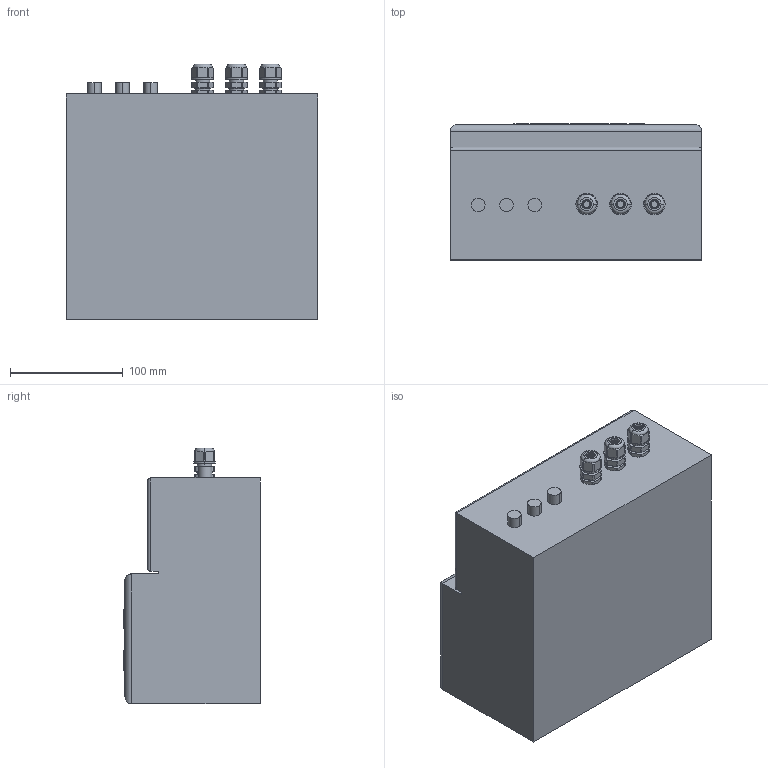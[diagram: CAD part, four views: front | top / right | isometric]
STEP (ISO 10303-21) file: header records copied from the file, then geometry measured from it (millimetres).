
FILE_DESCRIPTION((''),'2;1');
FILE_NAME('ASM0007_ASM','2026-01-23T14:55:41',('28740194'),(''),'CREO PARAMETRIC BY PTC INC, 2024063','CREO PARAMETRIC BY PTC INC, 2024063','');
FILE_SCHEMA(('CONFIG_CONTROL_DESIGN'));
Length unit declared in the file: millimetre
Products named in the file (9): KMPW520; EV214_27005336_DUMMY_MIR; EV214_27005336_02_MIR; EV214_27005336_03_MIR; EV214_27005336_04_MIR; EV214_27005336_06_MIR; EV214_27005336_07_MIR; ASM0003__ASM; ASM0007_ASM
Assembly tree (10 placements, depth 3):
  ASM0007_ASM
    KMPW520
    ASM0003__ASM  x3
      EV214_27005336_DUMMY_MIR
      EV214_27005336_02_MIR
      EV214_27005336_03_MIR
      EV214_27005336_04_MIR
      EV214_27005336_06_MIR
      EV214_27005336_07_MIR
Bounding box: 223 x 121 x 226.33 mm (x, y, z)
Volume: 4977957.4 mm3; surface area: 210073.8 mm2
Topology: 16 solids, 28 shells, 1052 faces, 2917 edges, 1946 vertices
Faces by surface type: plane 798, cylinder 206, cone 30, torus 18
Entity records: 19061 total; most frequent: CARTESIAN_POINT 3554, ORIENTED_EDGE 3234, DIRECTION 3111, EDGE_CURVE 1625, VECTOR 1317, LINE 1317, VERTEX_POINT 1082, AXIS2_PLACEMENT_3D 897
